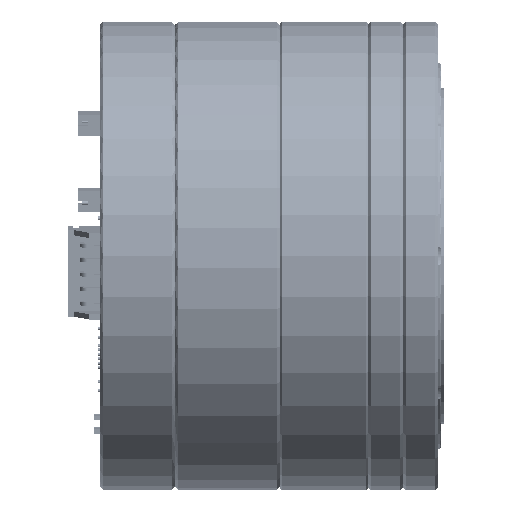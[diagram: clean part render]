
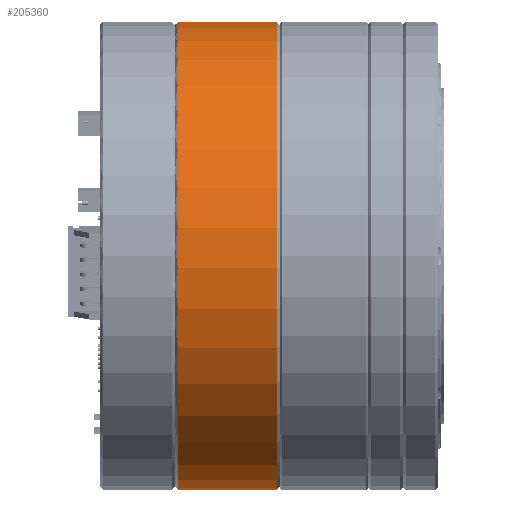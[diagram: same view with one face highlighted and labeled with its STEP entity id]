
A CAD part, front view. The second image highlights one B-rep face of the part: STEP entity #205360.
In plain terms, the highlighted cylindrical face has radius 40 mm (diameter 80 mm), a full revolution.
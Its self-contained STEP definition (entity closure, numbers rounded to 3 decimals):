
#5711=CYLINDRICAL_SURFACE('',#218484,40.);
#9879=CIRCLE('',#218482,40.);
#9880=CIRCLE('',#218483,40.);
#9881=CIRCLE('',#218485,40.);
#9882=CIRCLE('',#218486,40.);
#20260=FACE_OUTER_BOUND('',#31397,.T.);
#31397=EDGE_LOOP('',(#154194,#154195,#154196,#154197,#154198,#154199));
#49071=LINE('',#324959,#68510);
#68510=VECTOR('',#255604,40.);
#86236=VERTEX_POINT('',#324952);
#86237=VERTEX_POINT('',#324954);
#86238=VERTEX_POINT('',#324958);
#86239=VERTEX_POINT('',#324960);
#110288=EDGE_CURVE('',#86236,#86237,#9879,.T.);
#110289=EDGE_CURVE('',#86237,#86236,#9880,.T.);
#110290=EDGE_CURVE('',#86237,#86238,#49071,.T.);
#110291=EDGE_CURVE('',#86239,#86238,#9881,.T.);
#110292=EDGE_CURVE('',#86238,#86239,#9882,.T.);
#154194=ORIENTED_EDGE('',*,*,#110288,.F.);
#154195=ORIENTED_EDGE('',*,*,#110289,.F.);
#154196=ORIENTED_EDGE('',*,*,#110290,.T.);
#154197=ORIENTED_EDGE('',*,*,#110291,.F.);
#154198=ORIENTED_EDGE('',*,*,#110292,.F.);
#154199=ORIENTED_EDGE('',*,*,#110290,.F.);
#205360=ADVANCED_FACE('',(#20260),#5711,.T.);
#218482=AXIS2_PLACEMENT_3D('',#324955,#255598,#255599);
#218483=AXIS2_PLACEMENT_3D('',#324956,#255600,#255601);
#218484=AXIS2_PLACEMENT_3D('',#324957,#255602,#255603);
#218485=AXIS2_PLACEMENT_3D('',#324961,#255605,#255606);
#218486=AXIS2_PLACEMENT_3D('',#324962,#255607,#255608);
#255598=DIRECTION('center_axis',(-1.,0.,0.));
#255599=DIRECTION('ref_axis',(0.,-0.993,
0.121));
#255600=DIRECTION('center_axis',(-1.,0.,0.));
#255601=DIRECTION('ref_axis',(0.,-0.993,
0.121));
#255602=DIRECTION('center_axis',(-1.,0.,0.));
#255603=DIRECTION('ref_axis',(0.,0.993,-0.121));
#255604=DIRECTION('',(1.,0.,0.));
#255605=DIRECTION('center_axis',(1.,0.,0.));
#255606=DIRECTION('ref_axis',(0.,-0.993,
0.121));
#255607=DIRECTION('center_axis',(1.,0.,0.));
#255608=DIRECTION('ref_axis',(0.,-0.993,
0.121));
#324952=CARTESIAN_POINT('',(-4.5,39.704,-4.86));
#324954=CARTESIAN_POINT('',(-4.5,-39.704,4.86));
#324955=CARTESIAN_POINT('Origin',(-4.5,0.,
0.));
#324956=CARTESIAN_POINT('Origin',(-4.5,0.,
0.));
#324957=CARTESIAN_POINT('Origin',(4.,0.,
0.));
#324958=CARTESIAN_POINT('',(12.5,-39.704,4.86));
#324959=CARTESIAN_POINT('',(4.,-39.704,4.86));
#324960=CARTESIAN_POINT('',(12.5,39.704,-4.86));
#324961=CARTESIAN_POINT('Origin',(12.5,0.,0.));
#324962=CARTESIAN_POINT('Origin',(12.5,0.,0.));
